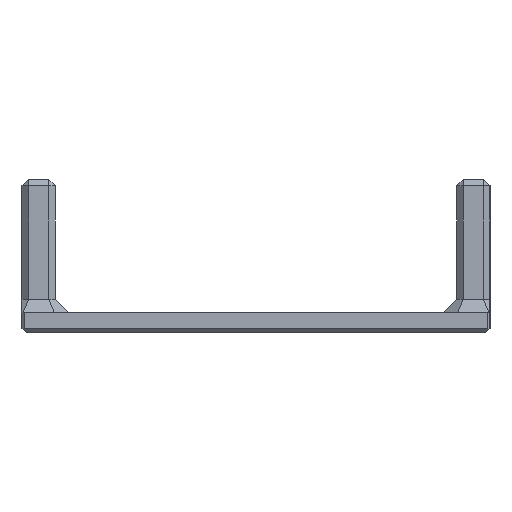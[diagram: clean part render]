
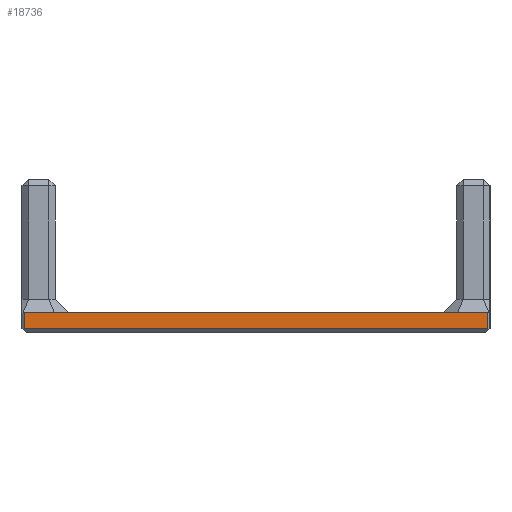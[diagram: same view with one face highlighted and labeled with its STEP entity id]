
A CAD part, left-side view. The second image highlights one B-rep face of the part: STEP entity #18736.
In plain terms, the highlighted planar face has unit normal (-1, 0, 0).
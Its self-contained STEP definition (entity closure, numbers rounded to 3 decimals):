
#822 = CARTESIAN_POINT ( 'NONE',  ( 0., 0.3, 3. ) ) ;
#2228 = DIRECTION ( 'NONE',  ( 0., 0., 1. ) ) ;
#2240 = CARTESIAN_POINT ( 'NONE',  ( 0., 0., 0.6 ) ) ;
#2710 = DIRECTION ( 'NONE',  ( -1., 0., 0. ) ) ;
#3662 = CARTESIAN_POINT ( 'NONE',  ( 0., 0.3, 3. ) ) ;
#4105 = VERTEX_POINT ( 'NONE', #13418 ) ;
#4210 = DIRECTION ( 'NONE',  ( 0., -1., 0. ) ) ;
#4315 = LINE ( 'NONE', #822, #5032 ) ;
#4657 = LINE ( 'NONE', #11802, #6657 ) ;
#4732 = EDGE_LOOP ( 'NONE', ( #14202, #22710, #10409, #8364 ) ) ;
#4972 = VERTEX_POINT ( 'NONE', #15537 ) ;
#5032 = VECTOR ( 'NONE', #2228, 1000. ) ;
#5271 = VECTOR ( 'NONE', #8809, 1000. ) ;
#5418 = CARTESIAN_POINT ( 'NONE',  ( 0., 69.7, 3. ) ) ;
#5975 = LINE ( 'NONE', #2240, #10326 ) ;
#6184 = EDGE_CURVE ( 'NONE', #21613, #4972, #7373, .T. ) ;
#6338 = PLANE ( 'NONE',  #8174 ) ;
#6657 = VECTOR ( 'NONE', #17524, 1000. ) ;
#6685 = FACE_OUTER_BOUND ( 'NONE', #4732, .T. ) ;
#7373 = LINE ( 'NONE', #9355, #5271 ) ;
#7870 = EDGE_CURVE ( 'NONE', #4105, #15754, #4315, .T. ) ;
#8174 = AXIS2_PLACEMENT_3D ( 'NONE', #20359, #2710, #9732 ) ;
#8364 = ORIENTED_EDGE ( 'NONE', *, *, #6184, .T. ) ;
#8809 = DIRECTION ( 'NONE',  ( 0., 0., -1. ) ) ;
#9355 = CARTESIAN_POINT ( 'NONE',  ( 0., 69.7, 3. ) ) ;
#9732 = DIRECTION ( 'NONE',  ( 0., 0., 1. ) ) ;
#10326 = VECTOR ( 'NONE', #4210, 1000. ) ;
#10409 = ORIENTED_EDGE ( 'NONE', *, *, #17544, .T. ) ;
#11802 = CARTESIAN_POINT ( 'NONE',  ( 0., 0., 3. ) ) ;
#13418 = CARTESIAN_POINT ( 'NONE',  ( 0., 0.3, 0.6 ) ) ;
#14202 = ORIENTED_EDGE ( 'NONE', *, *, #15776, .T. ) ;
#15537 = CARTESIAN_POINT ( 'NONE',  ( 0., 69.7, 0.6 ) ) ;
#15754 = VERTEX_POINT ( 'NONE', #3662 ) ;
#15776 = EDGE_CURVE ( 'NONE', #4972, #4105, #5975, .T. ) ;
#17524 = DIRECTION ( 'NONE',  ( 0., 1., 0. ) ) ;
#17544 = EDGE_CURVE ( 'NONE', #15754, #21613, #4657, .T. ) ;
#18736 = ADVANCED_FACE ( 'NONE', ( #6685 ), #6338, .T. ) ;
#20359 = CARTESIAN_POINT ( 'NONE',  ( 0., 0., 3. ) ) ;
#21613 = VERTEX_POINT ( 'NONE', #5418 ) ;
#22710 = ORIENTED_EDGE ( 'NONE', *, *, #7870, .T. ) ;
